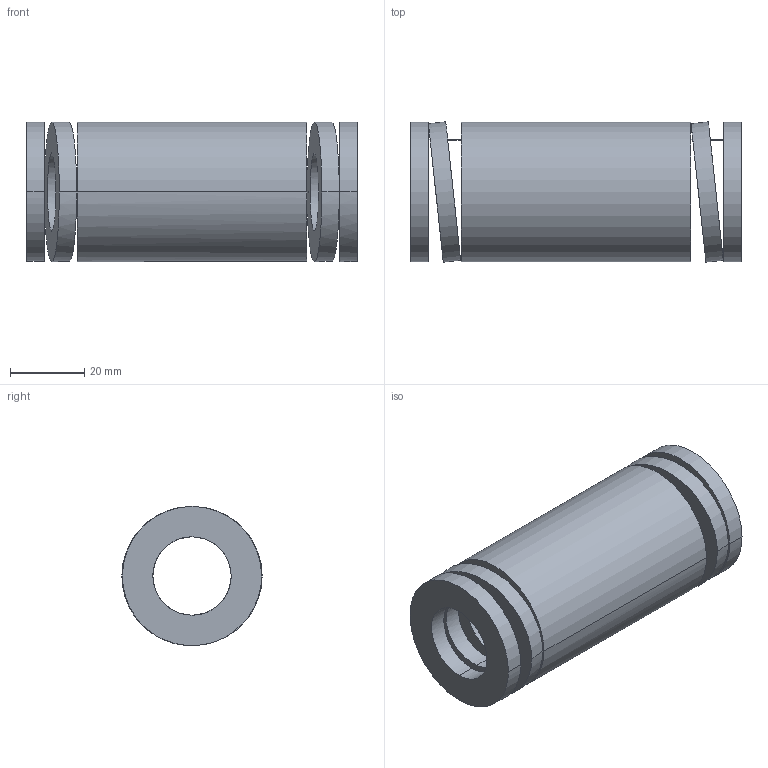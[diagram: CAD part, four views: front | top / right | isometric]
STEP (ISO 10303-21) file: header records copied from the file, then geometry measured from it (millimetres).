
FILE_DESCRIPTION(('CATIA V5 STEP Exchange'),'2;1');
FILE_NAME('C:\Users\Utente\Desktop\IO LAVORO\3D X SITO CF\X SITO\3D files 392B\392-B40-089.stp','2021-08-13T11:18:48+00:00',('none'),('none'),'CATIA Version 5 Release 20 GA (IN-10)','CATIA V5 STEP AP203','none');
FILE_SCHEMA(('CONFIG_CONTROL_DESIGN'));
Length unit declared in the file: millimetre
Products named in the file (1): 392-B40-089
Bounding box: 89 x 37.79 x 37.5 mm (x, y, z)
Volume: 60902 mm3; surface area: 22407.1 mm2
Topology: 1 solids, 1 shells, 38 faces, 92 edges, 64 vertices
Faces by surface type: cylinder 28, plane 10
Entity records: 1638 total; most frequent: CARTESIAN_POINT 761, ORIENTED_EDGE 184, DIRECTION 123, EDGE_CURVE 92, VERTEX_POINT 64, AXIS2_PLACEMENT_3D 58, EDGE_LOOP 56, B_SPLINE_CURVE_WITH_KNOTS 45
